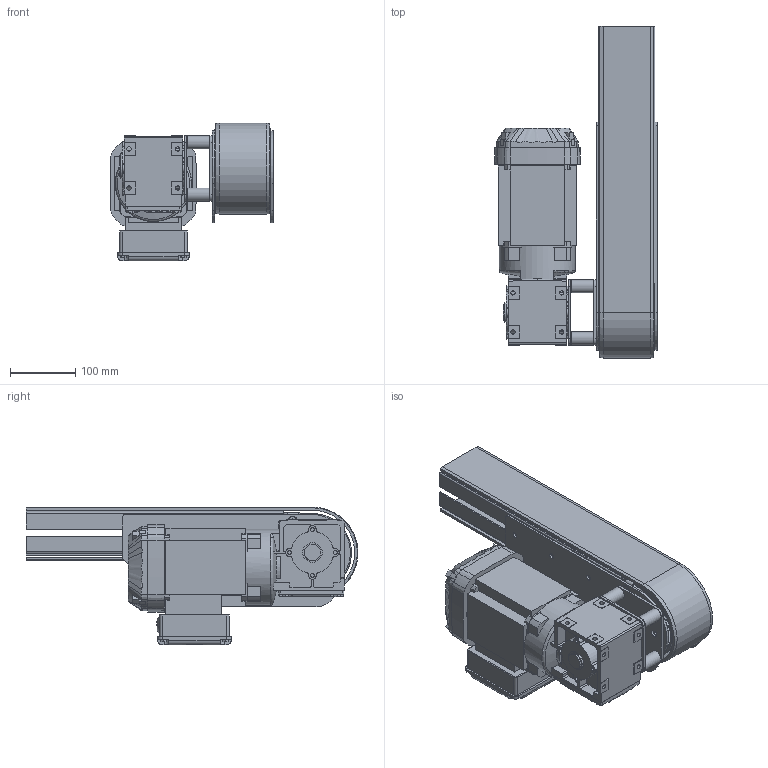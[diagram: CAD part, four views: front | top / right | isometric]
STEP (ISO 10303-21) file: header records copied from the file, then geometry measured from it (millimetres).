
FILE_DESCRIPTION(/* description */ ('DRIVE UNIT S530'),/* implementation_level */ '2;1');
FILE_NAME(/* name */ '530-30-HR.stp',/* time_stamp */ '2022-09-20T11:14:25+02:00',/* author */ ('PL'),/* organization */ ('CARRYLINE'),/* preprocessor_version */ 'ST-DEVELOPER v19.2',/* originating_system */ 'Autodesk Inventor 2023',/* authorisation */ '');
FILE_SCHEMA (('AUTOMOTIVE_DESIGN { 1 0 10303 214 3 1 1 }'));
Length unit declared in the file: millimetre
Products named in the file (6): 530-30-HR; Drivände S530; 900-4030; 500-3077; 500-3150; 500-3075
Assembly tree (8 placements, depth 2):
  530-30-HR
    Drivände S530
    900-4030
    500-3077
    500-3150  x4
    500-3075
Bounding box: 250.41 x 509.96 x 211.8 mm (x, y, z)
Volume: 5638020.4 mm3; surface area: 787085.6 mm2
Topology: 8 solids, 10 shells, 1145 faces, 3097 edges, 2008 vertices
Faces by surface type: plane 597, cylinder 426, cone 86, bspline 33, sphere 2, torus 1
Full cylindrical faces by diameter (mm): 5.2 x4, 6 x15, 6.2 x6, 6.6 x8, 6.647 x4, 8.2 x6, 10.2 x4, 11 x8, 11.34 x5, 20 x5, 25 x1, 26 x3, 28 x1, 30 x2, 37 x1, 117 x1
Entity records: 38422 total; most frequent: CARTESIAN_POINT 8848, DIRECTION 6113, ORIENTED_EDGE 6092, EDGE_CURVE 3046, AXIS2_PLACEMENT_3D 2126, VERTEX_POINT 1981, LINE 1861, VECTOR 1861
